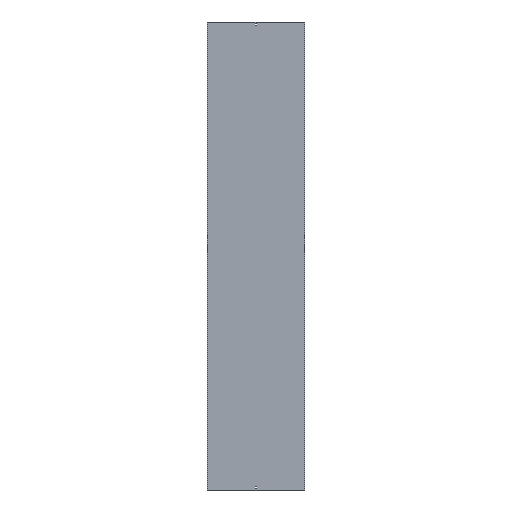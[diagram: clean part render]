
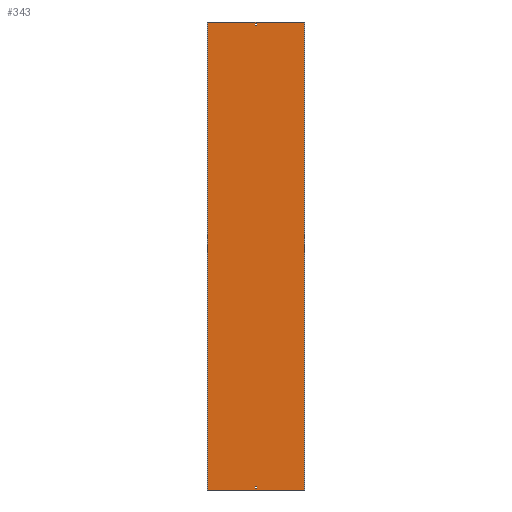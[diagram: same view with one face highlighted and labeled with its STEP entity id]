
A CAD part, front view. The second image highlights one B-rep face of the part: STEP entity #343.
In plain terms, the highlighted planar face has unit normal (0, -1, 0).
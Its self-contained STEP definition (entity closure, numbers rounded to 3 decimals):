
#6 = ORIENTED_EDGE ( 'NONE', *, *, #242, .F. ) ;
#7 = CARTESIAN_POINT ( 'NONE',  ( -311.5, -1.5, -1488. ) ) ;
#11 = ORIENTED_EDGE ( 'NONE', *, *, #206, .T. ) ;
#14 = VECTOR ( 'NONE', #516, 1000. ) ;
#15 = ORIENTED_EDGE ( 'NONE', *, *, #567, .T. ) ;
#21 = CARTESIAN_POINT ( 'NONE',  ( -3.25, -1.5, -1479. ) ) ;
#23 = VERTEX_POINT ( 'NONE', #413 ) ;
#32 = DIRECTION ( 'NONE',  ( -1., 0., 0. ) ) ;
#34 = EDGE_CURVE ( 'NONE', #392, #581, #54, .T. ) ;
#37 = LINE ( 'NONE', #369, #219 ) ;
#48 = DIRECTION ( 'NONE',  ( 0., 0., -1. ) ) ;
#53 = EDGE_LOOP ( 'NONE', ( #436, #6, #194, #524 ) ) ;
#54 = LINE ( 'NONE', #7, #556 ) ;
#64 = VECTOR ( 'NONE', #571, 1000. ) ;
#65 = VERTEX_POINT ( 'NONE', #590 ) ;
#77 = VERTEX_POINT ( 'NONE', #201 ) ;
#84 = CARTESIAN_POINT ( 'NONE',  ( -311.5, -1.5, 1500. ) ) ;
#89 = CARTESIAN_POINT ( 'NONE',  ( -311.5, -1.5, 1479. ) ) ;
#104 = EDGE_CURVE ( 'NONE', #581, #454, #162, .T. ) ;
#109 = LINE ( 'NONE', #155, #290 ) ;
#121 = LINE ( 'NONE', #89, #467 ) ;
#136 = FACE_BOUND ( 'NONE', #53, .T. ) ;
#143 = CARTESIAN_POINT ( 'NONE',  ( -311.5, -1.5, -1479. ) ) ;
#151 = LINE ( 'NONE', #410, #487 ) ;
#155 = CARTESIAN_POINT ( 'NONE',  ( -311.5, -1.5, 1488. ) ) ;
#156 = EDGE_CURVE ( 'NONE', #157, #421, #570, .T. ) ;
#157 = VERTEX_POINT ( 'NONE', #435 ) ;
#158 = CARTESIAN_POINT ( 'NONE',  ( -310., -1.5, 1500. ) ) ;
#162 = LINE ( 'NONE', #274, #519 ) ;
#183 = EDGE_LOOP ( 'NONE', ( #424, #319, #15, #255 ) ) ;
#184 = LINE ( 'NONE', #143, #234 ) ;
#189 = CARTESIAN_POINT ( 'NONE',  ( 3.25, -1.5, 1488. ) ) ;
#194 = ORIENTED_EDGE ( 'NONE', *, *, #577, .F. ) ;
#197 = PLANE ( 'NONE',  #422 ) ;
#200 = LINE ( 'NONE', #158, #543 ) ;
#201 = CARTESIAN_POINT ( 'NONE',  ( 310., -1.5, -1500. ) ) ;
#204 = VERTEX_POINT ( 'NONE', #365 ) ;
#206 = EDGE_CURVE ( 'NONE', #557, #65, #325, .T. ) ;
#219 = VECTOR ( 'NONE', #364, 1000. ) ;
#221 = EDGE_CURVE ( 'NONE', #421, #352, #121, .T. ) ;
#222 = EDGE_CURVE ( 'NONE', #557, #77, #289, .T. ) ;
#234 = VECTOR ( 'NONE', #241, 1000. ) ;
#237 = ORIENTED_EDGE ( 'NONE', *, *, #457, .F. ) ;
#238 = FACE_BOUND ( 'NONE', #183, .T. ) ;
#241 = DIRECTION ( 'NONE',  ( 1., 0., 0. ) ) ;
#242 = EDGE_CURVE ( 'NONE', #312, #157, #109, .T. ) ;
#255 = ORIENTED_EDGE ( 'NONE', *, *, #539, .T. ) ;
#261 = EDGE_CURVE ( 'NONE', #65, #204, #200, .T. ) ;
#267 = DIRECTION ( 'NONE',  ( 0., 0., 1. ) ) ;
#274 = CARTESIAN_POINT ( 'NONE',  ( -3.25, -1.5, 1500. ) ) ;
#289 = LINE ( 'NONE', #586, #477 ) ;
#290 = VECTOR ( 'NONE', #473, 1000. ) ;
#293 = CARTESIAN_POINT ( 'NONE',  ( 3.25, -1.5, 1479. ) ) ;
#312 = VERTEX_POINT ( 'NONE', #189 ) ;
#319 = ORIENTED_EDGE ( 'NONE', *, *, #104, .T. ) ;
#325 = LINE ( 'NONE', #84, #64 ) ;
#326 = DIRECTION ( 'NONE',  ( 0., -1., 0. ) ) ;
#330 = DIRECTION ( 'NONE',  ( 0., 0., -1. ) ) ;
#332 = CARTESIAN_POINT ( 'NONE',  ( -3.25, -1.5, -1488. ) ) ;
#338 = DIRECTION ( 'NONE',  ( 0., 0., -1. ) ) ;
#343 = ADVANCED_FACE ( 'NONE', ( #136, #538, #238 ), #197, .T. ) ;
#352 = VERTEX_POINT ( 'NONE', #293 ) ;
#353 = EDGE_LOOP ( 'NONE', ( #237, #549, #11, #460 ) ) ;
#364 = DIRECTION ( 'NONE',  ( 0., 0., -1. ) ) ;
#365 = CARTESIAN_POINT ( 'NONE',  ( -310., -1.5, -1500. ) ) ;
#369 = CARTESIAN_POINT ( 'NONE',  ( 3.25, -1.5, 1500. ) ) ;
#373 = CARTESIAN_POINT ( 'NONE',  ( 3.25, -1.5, -1488. ) ) ;
#391 = LINE ( 'NONE', #489, #458 ) ;
#392 = VERTEX_POINT ( 'NONE', #373 ) ;
#410 = CARTESIAN_POINT ( 'NONE',  ( 3.25, -1.5, 1500. ) ) ;
#413 = CARTESIAN_POINT ( 'NONE',  ( 3.25, -1.5, -1479. ) ) ;
#421 = VERTEX_POINT ( 'NONE', #558 ) ;
#422 = AXIS2_PLACEMENT_3D ( 'NONE', #583, #326, #330 ) ;
#424 = ORIENTED_EDGE ( 'NONE', *, *, #34, .T. ) ;
#426 = DIRECTION ( 'NONE',  ( -1., 0., 0. ) ) ;
#435 = CARTESIAN_POINT ( 'NONE',  ( -3.25, -1.5, 1488. ) ) ;
#436 = ORIENTED_EDGE ( 'NONE', *, *, #156, .F. ) ;
#443 = DIRECTION ( 'NONE',  ( 1., 0., 0. ) ) ;
#454 = VERTEX_POINT ( 'NONE', #21 ) ;
#457 = EDGE_CURVE ( 'NONE', #77, #204, #391, .T. ) ;
#458 = VECTOR ( 'NONE', #32, 1000. ) ;
#460 = ORIENTED_EDGE ( 'NONE', *, *, #261, .T. ) ;
#465 = CARTESIAN_POINT ( 'NONE',  ( 310., -1.5, 1500. ) ) ;
#467 = VECTOR ( 'NONE', #443, 1000. ) ;
#473 = DIRECTION ( 'NONE',  ( -1., 0., 0. ) ) ;
#477 = VECTOR ( 'NONE', #48, 1000. ) ;
#487 = VECTOR ( 'NONE', #540, 1000. ) ;
#489 = CARTESIAN_POINT ( 'NONE',  ( -311.5, -1.5, -1500. ) ) ;
#516 = DIRECTION ( 'NONE',  ( 0., 0., -1. ) ) ;
#519 = VECTOR ( 'NONE', #267, 1000. ) ;
#523 = CARTESIAN_POINT ( 'NONE',  ( -3.25, -1.5, 1500. ) ) ;
#524 = ORIENTED_EDGE ( 'NONE', *, *, #221, .F. ) ;
#538 = FACE_OUTER_BOUND ( 'NONE', #353, .T. ) ;
#539 = EDGE_CURVE ( 'NONE', #23, #392, #37, .T. ) ;
#540 = DIRECTION ( 'NONE',  ( 0., 0., 1. ) ) ;
#543 = VECTOR ( 'NONE', #338, 1000. ) ;
#549 = ORIENTED_EDGE ( 'NONE', *, *, #222, .F. ) ;
#556 = VECTOR ( 'NONE', #426, 1000. ) ;
#557 = VERTEX_POINT ( 'NONE', #465 ) ;
#558 = CARTESIAN_POINT ( 'NONE',  ( -3.25, -1.5, 1479. ) ) ;
#567 = EDGE_CURVE ( 'NONE', #454, #23, #184, .T. ) ;
#570 = LINE ( 'NONE', #523, #14 ) ;
#571 = DIRECTION ( 'NONE',  ( -1., 0., 0. ) ) ;
#577 = EDGE_CURVE ( 'NONE', #352, #312, #151, .T. ) ;
#581 = VERTEX_POINT ( 'NONE', #332 ) ;
#583 = CARTESIAN_POINT ( 'NONE',  ( -311.5, -1.5, 1500. ) ) ;
#586 = CARTESIAN_POINT ( 'NONE',  ( 310., -1.5, 1500. ) ) ;
#590 = CARTESIAN_POINT ( 'NONE',  ( -310., -1.5, 1500. ) ) ;
